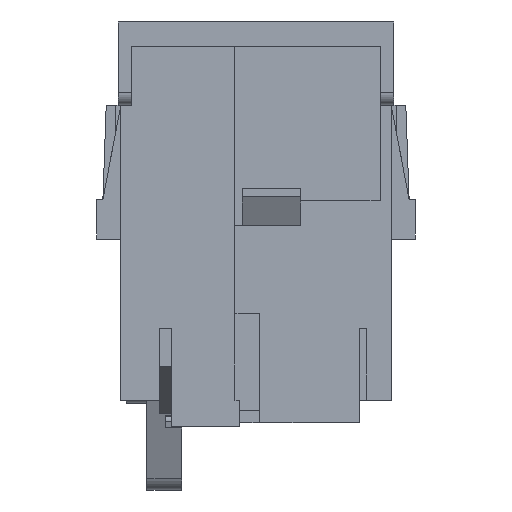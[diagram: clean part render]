
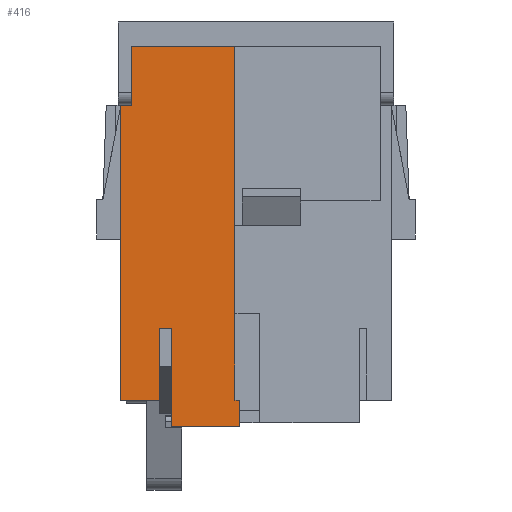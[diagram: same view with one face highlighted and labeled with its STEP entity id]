
A CAD part, left-side view. The second image highlights one B-rep face of the part: STEP entity #416.
In plain terms, the highlighted planar face has unit normal (-1, 0, 0).
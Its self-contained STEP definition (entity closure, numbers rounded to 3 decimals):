
#128=FACE_OUTER_BOUND('',#2657,.T.);
#416=ADVANCED_FACE('',(#128),#702,.F.);
#702=PLANE('',#6227);
#1199=LINE('',#8615,#2031);
#1206=LINE('',#8628,#2038);
#1241=LINE('',#8698,#2073);
#1242=LINE('',#8700,#2074);
#1243=LINE('',#8702,#2075);
#1244=LINE('',#8704,#2076);
#1245=LINE('',#8706,#2077);
#1246=LINE('',#8708,#2078);
#1247=LINE('',#8710,#2079);
#1248=LINE('',#8712,#2080);
#1249=LINE('',#8714,#2081);
#1250=LINE('',#8716,#2082);
#1251=LINE('',#8718,#2083);
#1252=LINE('',#8720,#2084);
#1253=LINE('',#8722,#2085);
#2031=VECTOR('',#6932,1.);
#2038=VECTOR('',#6943,1.);
#2073=VECTOR('',#6992,1.);
#2074=VECTOR('',#6993,1.);
#2075=VECTOR('',#6994,1.);
#2076=VECTOR('',#6995,1.);
#2077=VECTOR('',#6996,1.);
#2078=VECTOR('',#6997,1.);
#2079=VECTOR('',#6998,1.);
#2080=VECTOR('',#6999,1.);
#2081=VECTOR('',#7000,1.);
#2082=VECTOR('',#7001,1.);
#2083=VECTOR('',#7002,1.);
#2084=VECTOR('',#7003,1.);
#2085=VECTOR('',#7004,1.);
#2657=EDGE_LOOP('',(#3340,#3341,#3342,#3343,#3344,#3345,#3346,#3347,#3348,
#3349,#3350,#3351,#3352,#3353,#3354));
#3340=ORIENTED_EDGE('',*,*,#5524,.F.);
#3341=ORIENTED_EDGE('',*,*,#5566,.F.);
#3342=ORIENTED_EDGE('',*,*,#5567,.F.);
#3343=ORIENTED_EDGE('',*,*,#5568,.T.);
#3344=ORIENTED_EDGE('',*,*,#5569,.T.);
#3345=ORIENTED_EDGE('',*,*,#5570,.F.);
#3346=ORIENTED_EDGE('',*,*,#5571,.F.);
#3347=ORIENTED_EDGE('',*,*,#5572,.F.);
#3348=ORIENTED_EDGE('',*,*,#5573,.F.);
#3349=ORIENTED_EDGE('',*,*,#5574,.T.);
#3350=ORIENTED_EDGE('',*,*,#5575,.T.);
#3351=ORIENTED_EDGE('',*,*,#5576,.T.);
#3352=ORIENTED_EDGE('',*,*,#5577,.F.);
#3353=ORIENTED_EDGE('',*,*,#5578,.F.);
#3354=ORIENTED_EDGE('',*,*,#5531,.F.);
#4903=VERTEX_POINT('',#8614);
#4904=VERTEX_POINT('',#8616);
#4908=VERTEX_POINT('',#8629);
#4936=VERTEX_POINT('',#8699);
#4937=VERTEX_POINT('',#8701);
#4938=VERTEX_POINT('',#8703);
#4939=VERTEX_POINT('',#8705);
#4940=VERTEX_POINT('',#8707);
#4941=VERTEX_POINT('',#8709);
#4942=VERTEX_POINT('',#8711);
#4943=VERTEX_POINT('',#8713);
#4944=VERTEX_POINT('',#8715);
#4945=VERTEX_POINT('',#8717);
#4946=VERTEX_POINT('',#8719);
#4947=VERTEX_POINT('',#8721);
#5524=EDGE_CURVE('',#4903,#4904,#1199,.T.);
#5531=EDGE_CURVE('',#4904,#4908,#1206,.T.);
#5566=EDGE_CURVE('',#4936,#4903,#1241,.T.);
#5567=EDGE_CURVE('',#4937,#4936,#1242,.T.);
#5568=EDGE_CURVE('',#4937,#4938,#1243,.T.);
#5569=EDGE_CURVE('',#4938,#4939,#1244,.T.);
#5570=EDGE_CURVE('',#4940,#4939,#1245,.T.);
#5571=EDGE_CURVE('',#4941,#4940,#1246,.T.);
#5572=EDGE_CURVE('',#4942,#4941,#1247,.T.);
#5573=EDGE_CURVE('',#4943,#4942,#1248,.T.);
#5574=EDGE_CURVE('',#4943,#4944,#1249,.T.);
#5575=EDGE_CURVE('',#4944,#4945,#1250,.T.);
#5576=EDGE_CURVE('',#4945,#4946,#1251,.T.);
#5577=EDGE_CURVE('',#4947,#4946,#1252,.T.);
#5578=EDGE_CURVE('',#4908,#4947,#1253,.T.);
#6227=AXIS2_PLACEMENT_3D('',#8723,#7005,#7006);
#6932=DIRECTION('',(0.,0.,-1.));
#6943=DIRECTION('',(0.,1.,0.));
#6992=DIRECTION('',(0.,1.,0.));
#6993=DIRECTION('',(0.,0.,1.));
#6994=DIRECTION('',(0.,-1.,0.));
#6995=DIRECTION('',(0.,0.,1.));
#6996=DIRECTION('',(0.,-1.,0.));
#6997=DIRECTION('',(0.,0.,-1.));
#6998=DIRECTION('',(0.,0.,-1.));
#6999=DIRECTION('',(0.,1.,0.));
#7000=DIRECTION('',(0.,0.,1.));
#7001=DIRECTION('',(0.,1.,0.));
#7002=DIRECTION('',(0.,0.,-1.));
#7003=DIRECTION('',(0.,-1.,0.));
#7004=DIRECTION('',(0.,0.,1.));
#7005=DIRECTION('',(1.,0.,0.));
#7006=DIRECTION('',(0.,0.,-1.));
#8614=CARTESIAN_POINT('',(-30.1,-292.2,-22.7));
#8615=CARTESIAN_POINT('',(-30.1,-292.2,-50.));
#8616=CARTESIAN_POINT('',(-30.1,-292.2,-28.5));
#8628=CARTESIAN_POINT('',(-30.1,-310.7,-28.5));
#8629=CARTESIAN_POINT('',(-30.1,-289.1,-28.5));
#8698=CARTESIAN_POINT('',(-30.1,-298.3,-22.7));
#8699=CARTESIAN_POINT('',(-30.1,-293.2,-22.7));
#8700=CARTESIAN_POINT('',(-30.1,-293.2,-50.));
#8701=CARTESIAN_POINT('',(-30.1,-293.2,-30.6));
#8702=CARTESIAN_POINT('',(-30.1,-293.2,-30.6));
#8703=CARTESIAN_POINT('',(-30.1,-298.7,-30.6));
#8704=CARTESIAN_POINT('',(-30.1,-298.7,-30.6));
#8705=CARTESIAN_POINT('',(-30.1,-298.7,-28.5));
#8706=CARTESIAN_POINT('',(-30.1,-293.2,-28.5));
#8707=CARTESIAN_POINT('',(-30.1,-298.3,-28.5));
#8708=CARTESIAN_POINT('',(-30.1,-298.3,-50.));
#8709=CARTESIAN_POINT('',(-30.1,-298.3,-21.5));
#8710=CARTESIAN_POINT('',(-30.1,-298.3,-50.));
#8711=CARTESIAN_POINT('',(-30.1,-298.3,-5.2));
#8712=CARTESIAN_POINT('',(-30.1,-299.,-5.2));
#8713=CARTESIAN_POINT('',(-30.1,-299.,-5.2));
#8714=CARTESIAN_POINT('',(-30.1,-299.,-5.2));
#8715=CARTESIAN_POINT('',(-30.1,-299.,0.));
#8716=CARTESIAN_POINT('',(-30.1,-298.3,0.));
#8717=CARTESIAN_POINT('',(-30.1,-290.,0.));
#8718=CARTESIAN_POINT('',(-30.1,-290.,5.4));
#8719=CARTESIAN_POINT('',(-30.1,-290.,-4.7));
#8720=CARTESIAN_POINT('',(-30.1,-310.7,-4.7));
#8721=CARTESIAN_POINT('',(-30.1,-289.1,-4.7));
#8722=CARTESIAN_POINT('',(-30.1,-289.1,-28.5));
#8723=CARTESIAN_POINT('',(-30.1,-298.3,-50.));
